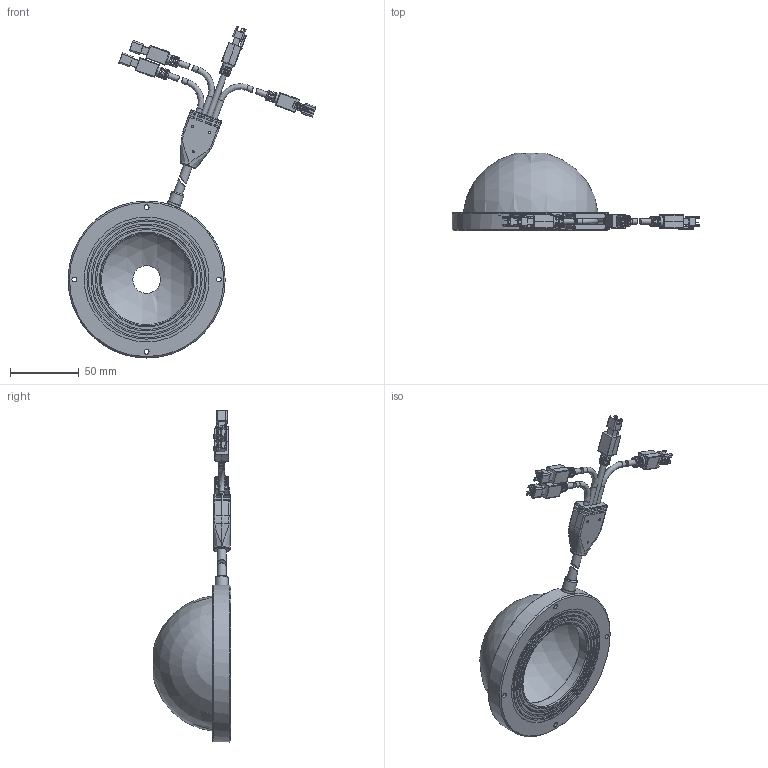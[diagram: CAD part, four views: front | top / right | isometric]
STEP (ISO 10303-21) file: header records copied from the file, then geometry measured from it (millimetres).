
FILE_DESCRIPTION (( 'STEP AP203' ), '1' );
FILE_NAME ('OPT-MSRID100-X-V1.0尨砩芞.STEP', '2025-02-12T03:42:44', ( '' ), ( '' ), 'SwSTEP 2.0', 'SolidWorks 2016', '' );
FILE_SCHEMA (( 'CONFIG_CONTROL_DESIGN' ));
Length unit declared in the file: millimetre
Products named in the file (1): OPT-MSRID100-X-V1.0尨砩芞
Bounding box: 179.92 x 56.48 x 241.1 mm (x, y, z)
Surface area: 67489 mm2 (no closed solid volume)
Topology: 0 solids, 24 shells, 975 faces, 2765 edges, 1786 vertices
Faces by surface type: plane 523, cylinder 329, bspline 55, cone 52, torus 14, sphere 2
Full cylindrical faces by diameter (mm): 1.1 x4, 1.4 x4, 1.5 x3, 1.6 x4, 2 x4, 2.3 x4, 2.4 x4, 3.5 x4, 4.1 x10, 6.4 x2, 7.5 x4, 8.6 x1, 9.3 x1, 9.8 x1, 20 x1, 65.6 x1, 67.8 x1, 68.6 x1, 72.6 x1, 74.6 x1, 78.6 x1, 80.6 x1, 84.6 x1, 86.6 x1, 90.6 x1, 99.8 x1, 111.6 x1, 114 x1
Entity records: 37743 total; most frequent: CARTESIAN_POINT 14225, ORIENTED_EDGE 4835, DIRECTION 4426, EDGE_CURVE 2601, VERTEX_POINT 1737, VECTOR 1568, LINE 1568, AXIS2_PLACEMENT_3D 1429
